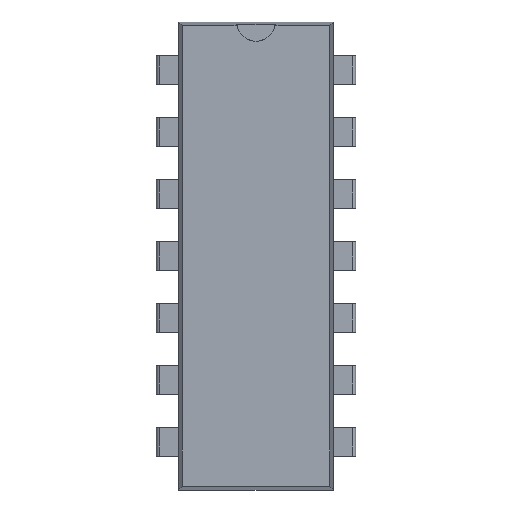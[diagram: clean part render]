
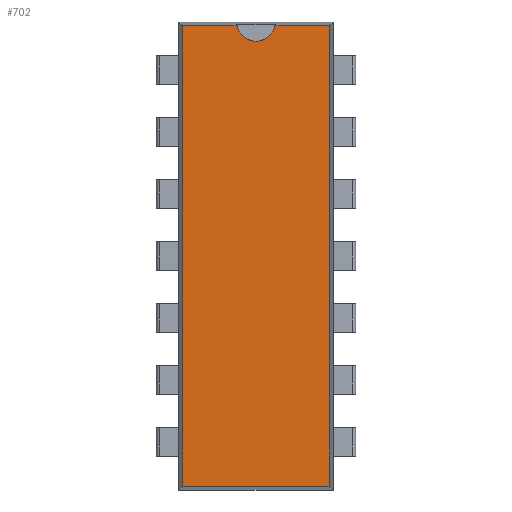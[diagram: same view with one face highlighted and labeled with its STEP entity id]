
A CAD part, top view. The second image highlights one B-rep face of the part: STEP entity #702.
In plain terms, the highlighted planar face has unit normal (0, 0, 1).
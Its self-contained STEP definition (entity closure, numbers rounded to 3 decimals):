
#141 = PLANE('',#142);
#142 = AXIS2_PLACEMENT_3D('',#143,#144,#145);
#143 = CARTESIAN_POINT('',(-3.096,-9.59,3.956));
#144 = DIRECTION('',(0.998,0.,-0.07));
#145 = DIRECTION('',(0.,1.,0.));
#227 = PLANE('',#228);
#228 = AXIS2_PLACEMENT_3D('',#229,#230,#231);
#229 = CARTESIAN_POINT('',(-3.175,-9.511,3.956));
#230 = DIRECTION('',(0.,0.998,-0.07));
#231 = DIRECTION('',(-1.,-0.,-0.));
#324 = VERTEX_POINT('',#325);
#325 = CARTESIAN_POINT('',(-3.016,-9.431,5.08));
#348 = VERTEX_POINT('',#349);
#349 = CARTESIAN_POINT('',(-3.016,9.431,5.08));
#363 = PLANE('',#364);
#364 = AXIS2_PLACEMENT_3D('',#365,#366,#367);
#365 = CARTESIAN_POINT('',(-3.175,9.511,3.956));
#366 = DIRECTION('',(0.,0.998,0.07));
#367 = DIRECTION('',(-1.,0.,0.));
#375 = EDGE_CURVE('',#324,#348,#376,.T.);
#376 = SURFACE_CURVE('',#377,(#381,#388),.PCURVE_S1.);
#377 = LINE('',#378,#379);
#378 = CARTESIAN_POINT('',(-3.016,-9.59,5.08));
#379 = VECTOR('',#380,1.);
#380 = DIRECTION('',(0.,1.,0.));
#381 = PCURVE('',#141,#382);
#382 = DEFINITIONAL_REPRESENTATION('',(#383),#387);
#383 = LINE('',#384,#385);
#384 = CARTESIAN_POINT('',(0.,1.127));
#385 = VECTOR('',#386,1.);
#386 = DIRECTION('',(1.,0.));
#387 = ( GEOMETRIC_REPRESENTATION_CONTEXT(2) 
PARAMETRIC_REPRESENTATION_CONTEXT() REPRESENTATION_CONTEXT('2D SPACE',''
  ) );
#388 = PCURVE('',#389,#394);
#389 = PLANE('',#390);
#390 = AXIS2_PLACEMENT_3D('',#391,#392,#393);
#391 = CARTESIAN_POINT('',(-3.175,-9.59,5.08));
#392 = DIRECTION('',(0.,0.,1.));
#393 = DIRECTION('',(1.,0.,0.));
#394 = DEFINITIONAL_REPRESENTATION('',(#395),#399);
#395 = LINE('',#396,#397);
#396 = CARTESIAN_POINT('',(0.159,0.));
#397 = VECTOR('',#398,1.);
#398 = DIRECTION('',(0.,1.));
#399 = ( GEOMETRIC_REPRESENTATION_CONTEXT(2) 
PARAMETRIC_REPRESENTATION_CONTEXT() REPRESENTATION_CONTEXT('2D SPACE',''
  ) );
#517 = PLANE('',#518);
#518 = AXIS2_PLACEMENT_3D('',#519,#520,#521);
#519 = CARTESIAN_POINT('',(3.096,-9.59,3.956));
#520 = DIRECTION('',(0.998,0.,0.07));
#521 = DIRECTION('',(0.,1.,0.));
#584 = VERTEX_POINT('',#585);
#585 = CARTESIAN_POINT('',(3.016,-9.431,5.08));
#606 = EDGE_CURVE('',#324,#584,#607,.T.);
#607 = SURFACE_CURVE('',#608,(#612,#619),.PCURVE_S1.);
#608 = LINE('',#609,#610);
#609 = CARTESIAN_POINT('',(-3.175,-9.431,5.08));
#610 = VECTOR('',#611,1.);
#611 = DIRECTION('',(1.,0.,0.));
#612 = PCURVE('',#227,#613);
#613 = DEFINITIONAL_REPRESENTATION('',(#614),#618);
#614 = LINE('',#615,#616);
#615 = CARTESIAN_POINT('',(-0.,1.127));
#616 = VECTOR('',#617,1.);
#617 = DIRECTION('',(-1.,0.));
#618 = ( GEOMETRIC_REPRESENTATION_CONTEXT(2) 
PARAMETRIC_REPRESENTATION_CONTEXT() REPRESENTATION_CONTEXT('2D SPACE',''
  ) );
#619 = PCURVE('',#389,#620);
#620 = DEFINITIONAL_REPRESENTATION('',(#621),#625);
#621 = LINE('',#622,#623);
#622 = CARTESIAN_POINT('',(0.,0.159));
#623 = VECTOR('',#624,1.);
#624 = DIRECTION('',(1.,0.));
#625 = ( GEOMETRIC_REPRESENTATION_CONTEXT(2) 
PARAMETRIC_REPRESENTATION_CONTEXT() REPRESENTATION_CONTEXT('2D SPACE',''
  ) );
#702 = ADVANCED_FACE('',(#703),#389,.T.);
#703 = FACE_BOUND('',#704,.T.);
#704 = EDGE_LOOP('',(#705,#706,#707,#730,#753,#782));
#705 = ORIENTED_EDGE('',*,*,#375,.F.);
#706 = ORIENTED_EDGE('',*,*,#606,.T.);
#707 = ORIENTED_EDGE('',*,*,#708,.T.);
#708 = EDGE_CURVE('',#584,#709,#711,.T.);
#709 = VERTEX_POINT('',#710);
#710 = CARTESIAN_POINT('',(3.016,9.431,5.08));
#711 = SURFACE_CURVE('',#712,(#716,#723),.PCURVE_S1.);
#712 = LINE('',#713,#714);
#713 = CARTESIAN_POINT('',(3.016,-9.59,5.08));
#714 = VECTOR('',#715,1.);
#715 = DIRECTION('',(0.,1.,0.));
#716 = PCURVE('',#389,#717);
#717 = DEFINITIONAL_REPRESENTATION('',(#718),#722);
#718 = LINE('',#719,#720);
#719 = CARTESIAN_POINT('',(6.191,0.));
#720 = VECTOR('',#721,1.);
#721 = DIRECTION('',(0.,1.));
#722 = ( GEOMETRIC_REPRESENTATION_CONTEXT(2) 
PARAMETRIC_REPRESENTATION_CONTEXT() REPRESENTATION_CONTEXT('2D SPACE',''
  ) );
#723 = PCURVE('',#517,#724);
#724 = DEFINITIONAL_REPRESENTATION('',(#725),#729);
#725 = LINE('',#726,#727);
#726 = CARTESIAN_POINT('',(0.,1.127));
#727 = VECTOR('',#728,1.);
#728 = DIRECTION('',(1.,0.));
#729 = ( GEOMETRIC_REPRESENTATION_CONTEXT(2) 
PARAMETRIC_REPRESENTATION_CONTEXT() REPRESENTATION_CONTEXT('2D SPACE',''
  ) );
#730 = ORIENTED_EDGE('',*,*,#731,.F.);
#731 = EDGE_CURVE('',#732,#709,#734,.T.);
#732 = VERTEX_POINT('',#733);
#733 = CARTESIAN_POINT('',(0.778,9.431,5.08));
#734 = SURFACE_CURVE('',#735,(#739,#746),.PCURVE_S1.);
#735 = LINE('',#736,#737);
#736 = CARTESIAN_POINT('',(-3.175,9.431,5.08));
#737 = VECTOR('',#738,1.);
#738 = DIRECTION('',(1.,0.,0.));
#739 = PCURVE('',#389,#740);
#740 = DEFINITIONAL_REPRESENTATION('',(#741),#745);
#741 = LINE('',#742,#743);
#742 = CARTESIAN_POINT('',(0.,19.021));
#743 = VECTOR('',#744,1.);
#744 = DIRECTION('',(1.,0.));
#745 = ( GEOMETRIC_REPRESENTATION_CONTEXT(2) 
PARAMETRIC_REPRESENTATION_CONTEXT() REPRESENTATION_CONTEXT('2D SPACE',''
  ) );
#746 = PCURVE('',#363,#747);
#747 = DEFINITIONAL_REPRESENTATION('',(#748),#752);
#748 = LINE('',#749,#750);
#749 = CARTESIAN_POINT('',(-0.,1.127));
#750 = VECTOR('',#751,1.);
#751 = DIRECTION('',(-1.,0.));
#752 = ( GEOMETRIC_REPRESENTATION_CONTEXT(2) 
PARAMETRIC_REPRESENTATION_CONTEXT() REPRESENTATION_CONTEXT('2D SPACE',''
  ) );
#753 = ORIENTED_EDGE('',*,*,#754,.F.);
#754 = EDGE_CURVE('',#755,#732,#757,.T.);
#755 = VERTEX_POINT('',#756);
#756 = CARTESIAN_POINT('',(-0.778,9.431,5.08));
#757 = SURFACE_CURVE('',#758,(#763,#770),.PCURVE_S1.);
#758 = CIRCLE('',#759,0.794);
#759 = AXIS2_PLACEMENT_3D('',#760,#761,#762);
#760 = CARTESIAN_POINT('',(0.,9.59,5.08));
#761 = DIRECTION('',(0.,0.,1.));
#762 = DIRECTION('',(1.,0.,0.));
#763 = PCURVE('',#389,#764);
#764 = DEFINITIONAL_REPRESENTATION('',(#765),#769);
#765 = CIRCLE('',#766,0.794);
#766 = AXIS2_PLACEMENT_2D('',#767,#768);
#767 = CARTESIAN_POINT('',(3.175,19.18));
#768 = DIRECTION('',(1.,0.));
#769 = ( GEOMETRIC_REPRESENTATION_CONTEXT(2) 
PARAMETRIC_REPRESENTATION_CONTEXT() REPRESENTATION_CONTEXT('2D SPACE',''
  ) );
#770 = PCURVE('',#771,#776);
#771 = CYLINDRICAL_SURFACE('',#772,0.794);
#772 = AXIS2_PLACEMENT_3D('',#773,#774,#775);
#773 = CARTESIAN_POINT('',(0.,9.59,4.572));
#774 = DIRECTION('',(0.,0.,1.));
#775 = DIRECTION('',(1.,0.,0.));
#776 = DEFINITIONAL_REPRESENTATION('',(#777),#781);
#777 = LINE('',#778,#779);
#778 = CARTESIAN_POINT('',(0.,0.508));
#779 = VECTOR('',#780,1.);
#780 = DIRECTION('',(1.,0.));
#781 = ( GEOMETRIC_REPRESENTATION_CONTEXT(2) 
PARAMETRIC_REPRESENTATION_CONTEXT() REPRESENTATION_CONTEXT('2D SPACE',''
  ) );
#782 = ORIENTED_EDGE('',*,*,#783,.F.);
#783 = EDGE_CURVE('',#348,#755,#784,.T.);
#784 = SURFACE_CURVE('',#785,(#789,#796),.PCURVE_S1.);
#785 = LINE('',#786,#787);
#786 = CARTESIAN_POINT('',(-3.175,9.431,5.08));
#787 = VECTOR('',#788,1.);
#788 = DIRECTION('',(1.,0.,0.));
#789 = PCURVE('',#389,#790);
#790 = DEFINITIONAL_REPRESENTATION('',(#791),#795);
#791 = LINE('',#792,#793);
#792 = CARTESIAN_POINT('',(0.,19.021));
#793 = VECTOR('',#794,1.);
#794 = DIRECTION('',(1.,0.));
#795 = ( GEOMETRIC_REPRESENTATION_CONTEXT(2) 
PARAMETRIC_REPRESENTATION_CONTEXT() REPRESENTATION_CONTEXT('2D SPACE',''
  ) );
#796 = PCURVE('',#363,#797);
#797 = DEFINITIONAL_REPRESENTATION('',(#798),#802);
#798 = LINE('',#799,#800);
#799 = CARTESIAN_POINT('',(-0.,1.127));
#800 = VECTOR('',#801,1.);
#801 = DIRECTION('',(-1.,0.));
#802 = ( GEOMETRIC_REPRESENTATION_CONTEXT(2) 
PARAMETRIC_REPRESENTATION_CONTEXT() REPRESENTATION_CONTEXT('2D SPACE',''
  ) );
